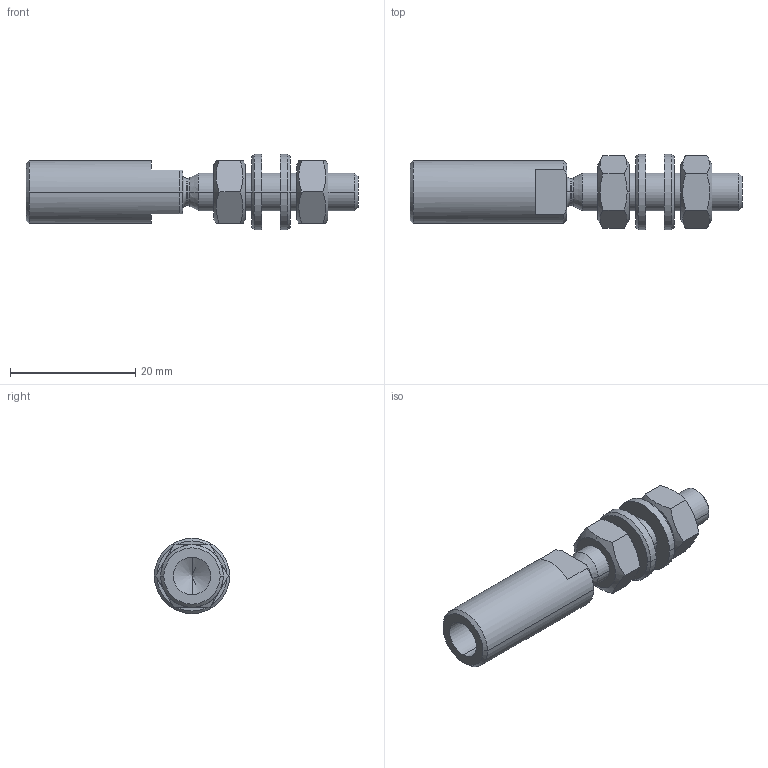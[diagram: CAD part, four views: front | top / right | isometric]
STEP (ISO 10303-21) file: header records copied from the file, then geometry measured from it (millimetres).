
FILE_DESCRIPTION((''),'2;1');
FILE_NAME('N:\Transfer\Berger Martin\Leybold\C15\210336.stp','2005-02-07T09:58:03',('VCRC_L'),(''),'Autodesk Inventor 9','Autodesk Inventor 9','');
FILE_SCHEMA(('AUTOMOTIVE_DESIGN { 1 0 10303 214 1 1 1 1 }'));
Length unit declared in the file: millimetre
Products named in the file (1): 210336
Bounding box: 53 x 12 x 12 mm (x, y, z)
Volume: 2891.5 mm3; surface area: 2646.6 mm2
Topology: 3 solids, 3 shells, 75 faces, 181 edges, 116 vertices
Faces by surface type: plane 27, cone 22, cylinder 18, bspline 8
Entity records: 2399 total; most frequent: CARTESIAN_POINT 687, DIRECTION 360, ORIENTED_EDGE 358, EDGE_CURVE 179, AXIS2_PLACEMENT_3D 149, VERTEX_POINT 116, EDGE_LOOP 85, CIRCLE 81
